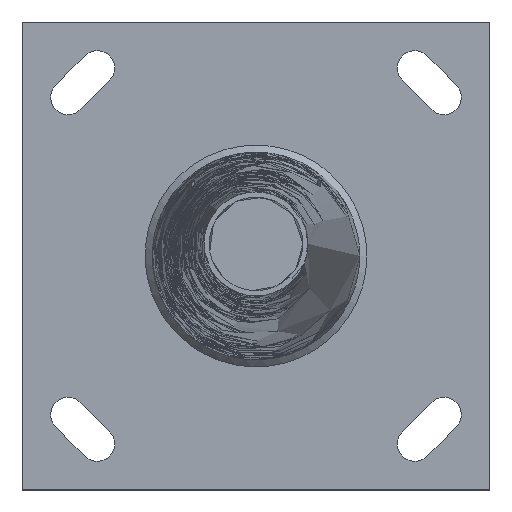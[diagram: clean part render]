
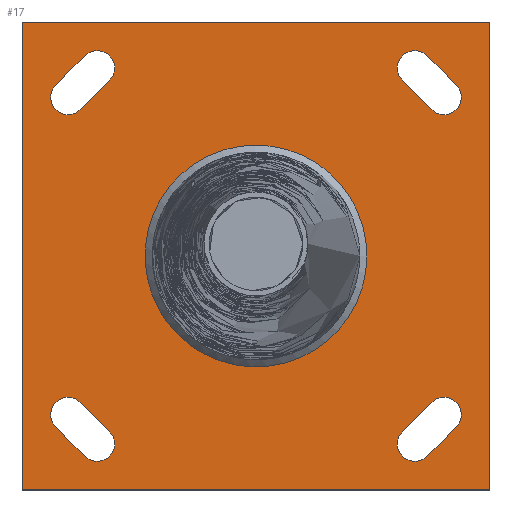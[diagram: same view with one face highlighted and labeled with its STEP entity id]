
A CAD part, top view. The second image highlights one B-rep face of the part: STEP entity #17.
In plain terms, the highlighted planar face has unit normal (0, 0, 1).
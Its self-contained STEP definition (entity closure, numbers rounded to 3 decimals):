
#17 = ADVANCED_FACE('',(#18,#75,#109,#145,#181,#217),#253,.T.);
#18 = FACE_BOUND('',#19,.T.);
#19 = EDGE_LOOP('',(#20));
#20 = ORIENTED_EDGE('',*,*,#21,.T.);
#21 = EDGE_CURVE('',#22,#22,#24,.T.);
#22 = VERTEX_POINT('',#23);
#23 = CARTESIAN_POINT('',(63.963,0.,5.));
#24 = B_SPLINE_CURVE_WITH_KNOTS('',7,(#25,#26,#27,#28,#29,#30,#31,#32,
    #33,#34,#35,#36,#37,#38,#39,#40,#41,#42,#43,#44,#45,#46,#47,#48,#49,
    #50,#51,#52,#53,#54,#55,#56,#57,#58,#59,#60,#61,#62,#63,#64,#65,#66,
    #67,#68,#69,#70,#71,#72,#73,#74),.UNSPECIFIED.,.T.,.F.,(8,6,6,6,6,6,
    6,6,8),(0.,47.094,94.189,
    141.283,188.378,235.472,282.567,
    329.661,376.755),.UNSPECIFIED.);
#25 = CARTESIAN_POINT('',(63.963,0.,5.));
#26 = CARTESIAN_POINT('',(63.963,-7.175,5.));
#27 = CARTESIAN_POINT('',(63.024,-14.355,5.));
#28 = CARTESIAN_POINT('',(61.143,-21.383,5.));
#29 = CARTESIAN_POINT('',(58.355,-28.115,5.));
#30 = CARTESIAN_POINT('',(54.715,-34.414,5.));
#31 = CARTESIAN_POINT('',(50.304,-40.153,5.));
#32 = CARTESIAN_POINT('',(40.153,-50.303,5.));
#33 = CARTESIAN_POINT('',(34.413,-54.713,5.));
#34 = CARTESIAN_POINT('',(28.115,-58.354,5.));
#35 = CARTESIAN_POINT('',(21.383,-61.144,5.));
#36 = CARTESIAN_POINT('',(14.355,-63.023,5.));
#37 = CARTESIAN_POINT('',(7.177,-63.963,5.));
#38 = CARTESIAN_POINT('',(-7.177,-63.962,5.));
#39 = CARTESIAN_POINT('',(-14.354,-63.022,5.));
#40 = CARTESIAN_POINT('',(-21.382,-61.143,5.));
#41 = CARTESIAN_POINT('',(-28.115,-58.356,5.));
#42 = CARTESIAN_POINT('',(-34.414,-54.714,5.));
#43 = CARTESIAN_POINT('',(-40.153,-50.304,5.));
#44 = CARTESIAN_POINT('',(-50.303,-40.153,5.));
#45 = CARTESIAN_POINT('',(-54.713,-34.413,5.));
#46 = CARTESIAN_POINT('',(-58.354,-28.115,5.));
#47 = CARTESIAN_POINT('',(-61.144,-21.383,5.));
#48 = CARTESIAN_POINT('',(-63.023,-14.355,5.));
#49 = CARTESIAN_POINT('',(-63.963,-7.177,5.));
#50 = CARTESIAN_POINT('',(-63.962,7.177,5.));
#51 = CARTESIAN_POINT('',(-63.022,14.354,5.));
#52 = CARTESIAN_POINT('',(-61.143,21.382,5.));
#53 = CARTESIAN_POINT('',(-58.356,28.115,5.));
#54 = CARTESIAN_POINT('',(-54.714,34.414,5.));
#55 = CARTESIAN_POINT('',(-50.304,40.153,5.));
#56 = CARTESIAN_POINT('',(-40.153,50.303,5.));
#57 = CARTESIAN_POINT('',(-34.413,54.713,5.));
#58 = CARTESIAN_POINT('',(-28.115,58.354,5.));
#59 = CARTESIAN_POINT('',(-21.383,61.144,5.));
#60 = CARTESIAN_POINT('',(-14.355,63.023,5.));
#61 = CARTESIAN_POINT('',(-7.177,63.963,5.));
#62 = CARTESIAN_POINT('',(7.177,63.962,5.));
#63 = CARTESIAN_POINT('',(14.354,63.022,5.));
#64 = CARTESIAN_POINT('',(21.382,61.143,5.));
#65 = CARTESIAN_POINT('',(28.115,58.356,5.));
#66 = CARTESIAN_POINT('',(34.414,54.714,5.));
#67 = CARTESIAN_POINT('',(40.153,50.304,5.));
#68 = CARTESIAN_POINT('',(50.303,40.153,5.));
#69 = CARTESIAN_POINT('',(54.713,34.413,5.));
#70 = CARTESIAN_POINT('',(58.354,28.115,5.));
#71 = CARTESIAN_POINT('',(61.144,21.383,5.));
#72 = CARTESIAN_POINT('',(63.023,14.355,5.));
#73 = CARTESIAN_POINT('',(63.963,7.175,5.));
#74 = CARTESIAN_POINT('',(63.963,0.,5.));
#75 = FACE_BOUND('',#76,.T.);
#76 = EDGE_LOOP('',(#77,#87,#95,#103));
#77 = ORIENTED_EDGE('',*,*,#78,.T.);
#78 = EDGE_CURVE('',#79,#81,#83,.T.);
#79 = VERTEX_POINT('',#80);
#80 = CARTESIAN_POINT('',(-135.,135.,5.));
#81 = VERTEX_POINT('',#82);
#82 = CARTESIAN_POINT('',(-135.,-135.,5.));
#83 = LINE('',#84,#85);
#84 = CARTESIAN_POINT('',(-135.,135.,5.));
#85 = VECTOR('',#86,1.);
#86 = DIRECTION('',(0.,-1.,0.));
#87 = ORIENTED_EDGE('',*,*,#88,.T.);
#88 = EDGE_CURVE('',#81,#89,#91,.T.);
#89 = VERTEX_POINT('',#90);
#90 = CARTESIAN_POINT('',(135.,-135.,5.));
#91 = LINE('',#92,#93);
#92 = CARTESIAN_POINT('',(-135.,-135.,5.));
#93 = VECTOR('',#94,1.);
#94 = DIRECTION('',(1.,0.,0.));
#95 = ORIENTED_EDGE('',*,*,#96,.T.);
#96 = EDGE_CURVE('',#89,#97,#99,.T.);
#97 = VERTEX_POINT('',#98);
#98 = CARTESIAN_POINT('',(135.,135.,5.));
#99 = LINE('',#100,#101);
#100 = CARTESIAN_POINT('',(135.,-135.,5.));
#101 = VECTOR('',#102,1.);
#102 = DIRECTION('',(0.,1.,0.));
#103 = ORIENTED_EDGE('',*,*,#104,.T.);
#104 = EDGE_CURVE('',#97,#79,#105,.T.);
#105 = LINE('',#106,#107);
#106 = CARTESIAN_POINT('',(135.,135.,5.));
#107 = VECTOR('',#108,1.);
#108 = DIRECTION('',(-1.,0.,0.));
#109 = FACE_BOUND('',#110,.T.);
#110 = EDGE_LOOP('',(#111,#122,#130,#139));
#111 = ORIENTED_EDGE('',*,*,#112,.F.);
#112 = EDGE_CURVE('',#113,#115,#117,.T.);
#113 = VERTEX_POINT('',#114);
#114 = CARTESIAN_POINT('',(-101.414,-84.444,5.));
#115 = VERTEX_POINT('',#116);
#116 = CARTESIAN_POINT('',(-115.556,-98.586,5.));
#117 = CIRCLE('',#118,10.);
#118 = AXIS2_PLACEMENT_3D('',#119,#120,#121);
#119 = CARTESIAN_POINT('',(-108.485,-91.515,5.));
#120 = DIRECTION('',(0.,-0.,1.));
#121 = DIRECTION('',(0.,1.,0.));
#122 = ORIENTED_EDGE('',*,*,#123,.T.);
#123 = EDGE_CURVE('',#113,#124,#126,.T.);
#124 = VERTEX_POINT('',#125);
#125 = CARTESIAN_POINT('',(-84.444,-101.414,5.));
#126 = LINE('',#127,#128);
#127 = CARTESIAN_POINT('',(-101.414,-84.444,5.));
#128 = VECTOR('',#129,1.);
#129 = DIRECTION('',(0.707,-0.707,0.));
#130 = ORIENTED_EDGE('',*,*,#131,.F.);
#131 = EDGE_CURVE('',#132,#124,#134,.T.);
#132 = VERTEX_POINT('',#133);
#133 = CARTESIAN_POINT('',(-98.586,-115.556,5.));
#134 = CIRCLE('',#135,10.);
#135 = AXIS2_PLACEMENT_3D('',#136,#137,#138);
#136 = CARTESIAN_POINT('',(-91.515,-108.485,5.));
#137 = DIRECTION('',(0.,-0.,1.));
#138 = DIRECTION('',(0.,1.,0.));
#139 = ORIENTED_EDGE('',*,*,#140,.F.);
#140 = EDGE_CURVE('',#115,#132,#141,.T.);
#141 = LINE('',#142,#143);
#142 = CARTESIAN_POINT('',(-115.556,-98.586,5.));
#143 = VECTOR('',#144,1.);
#144 = DIRECTION('',(0.707,-0.707,0.));
#145 = FACE_BOUND('',#146,.T.);
#146 = EDGE_LOOP('',(#147,#158,#166,#175));
#147 = ORIENTED_EDGE('',*,*,#148,.F.);
#148 = EDGE_CURVE('',#149,#151,#153,.T.);
#149 = VERTEX_POINT('',#150);
#150 = CARTESIAN_POINT('',(84.444,-101.414,5.));
#151 = VERTEX_POINT('',#152);
#152 = CARTESIAN_POINT('',(98.586,-115.556,5.));
#153 = CIRCLE('',#154,10.);
#154 = AXIS2_PLACEMENT_3D('',#155,#156,#157);
#155 = CARTESIAN_POINT('',(91.515,-108.485,5.));
#156 = DIRECTION('',(0.,0.,1.));
#157 = DIRECTION('',(-1.,0.,0.));
#158 = ORIENTED_EDGE('',*,*,#159,.T.);
#159 = EDGE_CURVE('',#149,#160,#162,.T.);
#160 = VERTEX_POINT('',#161);
#161 = CARTESIAN_POINT('',(101.414,-84.444,5.));
#162 = LINE('',#163,#164);
#163 = CARTESIAN_POINT('',(84.444,-101.414,5.));
#164 = VECTOR('',#165,1.);
#165 = DIRECTION('',(0.707,0.707,0.));
#166 = ORIENTED_EDGE('',*,*,#167,.F.);
#167 = EDGE_CURVE('',#168,#160,#170,.T.);
#168 = VERTEX_POINT('',#169);
#169 = CARTESIAN_POINT('',(115.556,-98.586,5.));
#170 = CIRCLE('',#171,10.);
#171 = AXIS2_PLACEMENT_3D('',#172,#173,#174);
#172 = CARTESIAN_POINT('',(108.485,-91.515,5.));
#173 = DIRECTION('',(0.,0.,1.));
#174 = DIRECTION('',(-1.,0.,0.));
#175 = ORIENTED_EDGE('',*,*,#176,.F.);
#176 = EDGE_CURVE('',#151,#168,#177,.T.);
#177 = LINE('',#178,#179);
#178 = CARTESIAN_POINT('',(98.586,-115.556,5.));
#179 = VECTOR('',#180,1.);
#180 = DIRECTION('',(0.707,0.707,0.));
#181 = FACE_BOUND('',#182,.T.);
#182 = EDGE_LOOP('',(#183,#194,#202,#211));
#183 = ORIENTED_EDGE('',*,*,#184,.F.);
#184 = EDGE_CURVE('',#185,#187,#189,.T.);
#185 = VERTEX_POINT('',#186);
#186 = CARTESIAN_POINT('',(-84.444,101.414,5.));
#187 = VERTEX_POINT('',#188);
#188 = CARTESIAN_POINT('',(-98.586,115.556,5.));
#189 = CIRCLE('',#190,10.);
#190 = AXIS2_PLACEMENT_3D('',#191,#192,#193);
#191 = CARTESIAN_POINT('',(-91.515,108.485,5.));
#192 = DIRECTION('',(0.,0.,1.));
#193 = DIRECTION('',(1.,0.,0.));
#194 = ORIENTED_EDGE('',*,*,#195,.T.);
#195 = EDGE_CURVE('',#185,#196,#198,.T.);
#196 = VERTEX_POINT('',#197);
#197 = CARTESIAN_POINT('',(-101.414,84.444,5.));
#198 = LINE('',#199,#200);
#199 = CARTESIAN_POINT('',(-84.444,101.414,5.));
#200 = VECTOR('',#201,1.);
#201 = DIRECTION('',(-0.707,-0.707,0.));
#202 = ORIENTED_EDGE('',*,*,#203,.F.);
#203 = EDGE_CURVE('',#204,#196,#206,.T.);
#204 = VERTEX_POINT('',#205);
#205 = CARTESIAN_POINT('',(-115.556,98.586,5.));
#206 = CIRCLE('',#207,10.);
#207 = AXIS2_PLACEMENT_3D('',#208,#209,#210);
#208 = CARTESIAN_POINT('',(-108.485,91.515,5.));
#209 = DIRECTION('',(0.,0.,1.));
#210 = DIRECTION('',(1.,0.,0.));
#211 = ORIENTED_EDGE('',*,*,#212,.F.);
#212 = EDGE_CURVE('',#187,#204,#213,.T.);
#213 = LINE('',#214,#215);
#214 = CARTESIAN_POINT('',(-98.586,115.556,5.));
#215 = VECTOR('',#216,1.);
#216 = DIRECTION('',(-0.707,-0.707,0.));
#217 = FACE_BOUND('',#218,.T.);
#218 = EDGE_LOOP('',(#219,#230,#238,#247));
#219 = ORIENTED_EDGE('',*,*,#220,.F.);
#220 = EDGE_CURVE('',#221,#223,#225,.T.);
#221 = VERTEX_POINT('',#222);
#222 = CARTESIAN_POINT('',(101.414,84.444,5.));
#223 = VERTEX_POINT('',#224);
#224 = CARTESIAN_POINT('',(115.556,98.586,5.));
#225 = CIRCLE('',#226,10.);
#226 = AXIS2_PLACEMENT_3D('',#227,#228,#229);
#227 = CARTESIAN_POINT('',(108.485,91.515,5.));
#228 = DIRECTION('',(0.,0.,1.));
#229 = DIRECTION('',(0.,-1.,0.));
#230 = ORIENTED_EDGE('',*,*,#231,.T.);
#231 = EDGE_CURVE('',#221,#232,#234,.T.);
#232 = VERTEX_POINT('',#233);
#233 = CARTESIAN_POINT('',(84.444,101.414,5.));
#234 = LINE('',#235,#236);
#235 = CARTESIAN_POINT('',(101.414,84.444,5.));
#236 = VECTOR('',#237,1.);
#237 = DIRECTION('',(-0.707,0.707,0.));
#238 = ORIENTED_EDGE('',*,*,#239,.F.);
#239 = EDGE_CURVE('',#240,#232,#242,.T.);
#240 = VERTEX_POINT('',#241);
#241 = CARTESIAN_POINT('',(98.586,115.556,5.));
#242 = CIRCLE('',#243,10.);
#243 = AXIS2_PLACEMENT_3D('',#244,#245,#246);
#244 = CARTESIAN_POINT('',(91.515,108.485,5.));
#245 = DIRECTION('',(0.,0.,1.));
#246 = DIRECTION('',(0.,-1.,0.));
#247 = ORIENTED_EDGE('',*,*,#248,.F.);
#248 = EDGE_CURVE('',#223,#240,#249,.T.);
#249 = LINE('',#250,#251);
#250 = CARTESIAN_POINT('',(115.556,98.586,5.));
#251 = VECTOR('',#252,1.);
#252 = DIRECTION('',(-0.707,0.707,0.));
#253 = PLANE('',#254);
#254 = AXIS2_PLACEMENT_3D('',#255,#256,#257);
#255 = CARTESIAN_POINT('',(0.,0.,5.));
#256 = DIRECTION('',(0.,0.,1.));
#257 = DIRECTION('',(1.,0.,0.));
